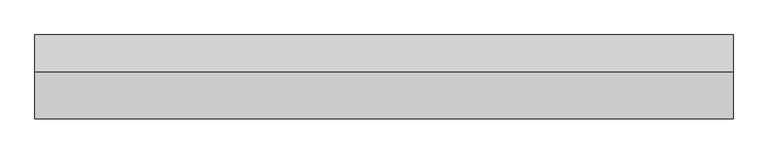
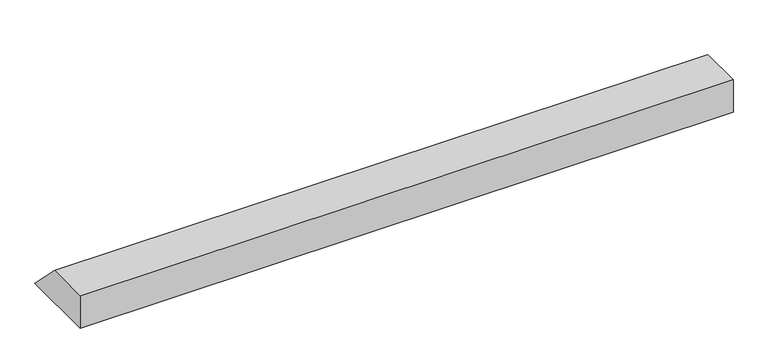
"""IFC4 building model written with IfcOpenShell, lengths in millimetres: proxy geometry, Gousset radier bord droit : Gousset radier bord droit."""

from ifc_helpers import new_model, si_unit, frame, origin, place, context, project, spatial, polyline, outline, extrude, source, transform, mapped, element, save


def generic_models_1dc0fe7d(model_context):
    return source(origin(), model_context, "Body", "SweptSolid", [
        extrude(outline(polyline([(0.0, 0.0), (0.0, 350.0), (450.0, 350.0), (800.0, 0.0), (0.0, 0.0)])), frame((0.0, 0.0, 0.0), z_axis=(1.0, 0.0, 0.0), x_axis=(0.0, 1.0, 0.0)), (0.0, 0.0, 1.0), 6657.3491734),
    ])


if __name__ == "__main__":
    model = new_model("IFC4")
    model_context = context("Model", 3, world=origin())
    ifc_project = project(units=[si_unit("LENGTHUNIT", "METRE", prefix="MILLI")], contexts=[model_context])
    site = spatial("IfcSite", under=ifc_project)
    building = spatial("IfcBuilding", under=site)
    placement = place(None, origin())
    generic_models_shape = generic_models_1dc0fe7d(model_context)
    element("IfcBuildingElementProxy", 1, Name="Gousset radier bord droit : Gousset radier bord droit", ObjectType="Gousset radier bord droit : Gousset radier bord droit", at=placement, inside=building, context=model_context, shape_type="MappedRepresentation", body=[
        mapped(generic_models_shape, transform((0.0, 0.0, 0.0), x_axis=(1.0, 0.0, 0.0), y_axis=(0.0, 1.0, 0.0), z_axis=(0.0, 0.0, 1.0))),
    ])
    save(model, "model.ifc")
